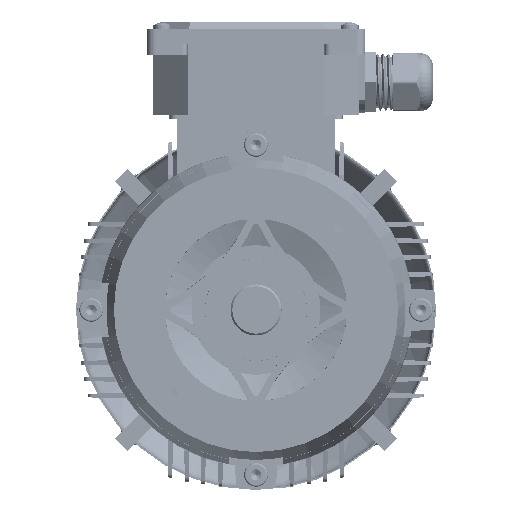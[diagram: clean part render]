
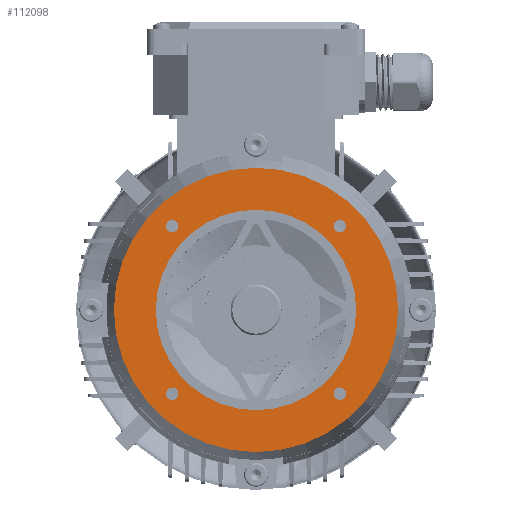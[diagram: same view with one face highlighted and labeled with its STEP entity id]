
A CAD part, front view. The second image highlights one B-rep face of the part: STEP entity #112098.
In plain terms, the highlighted planar face has unit normal (0, -1, 0).
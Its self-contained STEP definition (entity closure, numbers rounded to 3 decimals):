
#507 = DIRECTION ( 'NONE',  ( 0., -1., 0. ) ) ;
#873 = EDGE_LOOP ( 'NONE', ( #34666, #10859 ) ) ;
#1508 = CARTESIAN_POINT ( 'NONE',  ( 0., 21.003, 0. ) ) ;
#1948 = CARTESIAN_POINT ( 'NONE',  ( 0., 21.003, 0. ) ) ;
#3130 = DIRECTION ( 'NONE',  ( 0., 0., -1. ) ) ;
#3327 = DIRECTION ( 'NONE',  ( 0., -1., 0. ) ) ;
#4052 = EDGE_CURVE ( 'NONE', #50949, #20603, #116180, .T. ) ;
#5155 = CARTESIAN_POINT ( 'NONE',  ( -45.962, 21.003, 42.562 ) ) ;
#6336 = DIRECTION ( 'NONE',  ( 0., 0., -1. ) ) ;
#8072 = AXIS2_PLACEMENT_3D ( 'NONE', #47995, #113997, #57518 ) ;
#9351 = AXIS2_PLACEMENT_3D ( 'NONE', #116197, #59682, #3130 ) ;
#9647 = CARTESIAN_POINT ( 'NONE',  ( 45.962, 21.003, -45.962 ) ) ;
#10859 = ORIENTED_EDGE ( 'NONE', *, *, #76048, .F. ) ;
#11021 = DIRECTION ( 'NONE',  ( 0., 0., -1. ) ) ;
#11437 = AXIS2_PLACEMENT_3D ( 'NONE', #1508, #67525, #11021 ) ;
#11463 = DIRECTION ( 'NONE',  ( 0., 0., -1. ) ) ;
#11808 = ORIENTED_EDGE ( 'NONE', *, *, #96325, .F. ) ;
#11857 = AXIS2_PLACEMENT_3D ( 'NONE', #105547, #87000, #30579 ) ;
#13020 = AXIS2_PLACEMENT_3D ( 'NONE', #71510, #15078, #81009 ) ;
#14654 = CARTESIAN_POINT ( 'NONE',  ( -45.962, 21.003, -45.962 ) ) ;
#15078 = DIRECTION ( 'NONE',  ( 0., -1., 0. ) ) ;
#19187 = DIRECTION ( 'NONE',  ( 0., 0., -1. ) ) ;
#20000 = EDGE_CURVE ( 'NONE', #112520, #91763, #90257, .T. ) ;
#20036 = EDGE_CURVE ( 'NONE', #68073, #48106, #37115, .T. ) ;
#20159 = ORIENTED_EDGE ( 'NONE', *, *, #107417, .F. ) ;
#20601 = CARTESIAN_POINT ( 'NONE',  ( 45.962, 21.003, 45.962 ) ) ;
#20603 = VERTEX_POINT ( 'NONE', #104446 ) ;
#22218 = FACE_BOUND ( 'NONE', #43931, .T. ) ;
#23783 = VERTEX_POINT ( 'NONE', #116498 ) ;
#24160 = DIRECTION ( 'NONE',  ( 0., 0., -1. ) ) ;
#25765 = AXIS2_PLACEMENT_3D ( 'NONE', #57084, #507, #66493 ) ;
#29665 = EDGE_CURVE ( 'NONE', #121621, #23783, #82547, .T. ) ;
#30145 = DIRECTION ( 'NONE',  ( 0., 0., -1. ) ) ;
#30579 = DIRECTION ( 'NONE',  ( 0., 0., -1. ) ) ;
#31387 = CARTESIAN_POINT ( 'NONE',  ( 0., 21.003, -55. ) ) ;
#31615 = ORIENTED_EDGE ( 'NONE', *, *, #29665, .F. ) ;
#31795 = CIRCLE ( 'NONE', #25765, 3.4 ) ;
#32665 = AXIS2_PLACEMENT_3D ( 'NONE', #9647, #75637, #19187 ) ;
#34408 = ORIENTED_EDGE ( 'NONE', *, *, #4052, .F. ) ;
#34666 = ORIENTED_EDGE ( 'NONE', *, *, #55423, .F. ) ;
#37115 = CIRCLE ( 'NONE', #120946, 78. ) ;
#39044 = CARTESIAN_POINT ( 'NONE',  ( 45.962, 21.003, 49.362 ) ) ;
#40820 = CIRCLE ( 'NONE', #73087, 3.4 ) ;
#42418 = CIRCLE ( 'NONE', #112159, 3.4 ) ;
#43931 = EDGE_LOOP ( 'NONE', ( #79771, #63615 ) ) ;
#45009 = CIRCLE ( 'NONE', #64095, 78. ) ;
#45664 = CARTESIAN_POINT ( 'NONE',  ( 0., 21.003, 0. ) ) ;
#46729 = EDGE_CURVE ( 'NONE', #23783, #121621, #31795, .T. ) ;
#47250 = FACE_BOUND ( 'NONE', #80496, .T. ) ;
#47995 = CARTESIAN_POINT ( 'NONE',  ( 0., 21.003, 0. ) ) ;
#48106 = VERTEX_POINT ( 'NONE', #108559 ) ;
#50949 = VERTEX_POINT ( 'NONE', #57376 ) ;
#55176 = DIRECTION ( 'NONE',  ( 0., 0., -1. ) ) ;
#55423 = EDGE_CURVE ( 'NONE', #62669, #70119, #73583, .T. ) ;
#57017 = AXIS2_PLACEMENT_3D ( 'NONE', #14654, #80592, #24160 ) ;
#57084 = CARTESIAN_POINT ( 'NONE',  ( -45.962, 21.003, -45.962 ) ) ;
#57376 = CARTESIAN_POINT ( 'NONE',  ( 45.962, 21.003, -49.362 ) ) ;
#57518 = DIRECTION ( 'NONE',  ( 0., 0., -1. ) ) ;
#58554 = PLANE ( 'NONE',  #11857 ) ;
#59682 = DIRECTION ( 'NONE',  ( 0., -1., 0. ) ) ;
#59865 = CARTESIAN_POINT ( 'NONE',  ( -45.962, 21.003, 45.962 ) ) ;
#61201 = ORIENTED_EDGE ( 'NONE', *, *, #93158, .T. ) ;
#61520 = CIRCLE ( 'NONE', #9351, 3.4 ) ;
#61880 = CARTESIAN_POINT ( 'NONE',  ( 0., 21.003, 55. ) ) ;
#62669 = VERTEX_POINT ( 'NONE', #31387 ) ;
#62888 = DIRECTION ( 'NONE',  ( 0., -1., 0. ) ) ;
#63323 = ORIENTED_EDGE ( 'NONE', *, *, #46729, .F. ) ;
#63615 = ORIENTED_EDGE ( 'NONE', *, *, #20000, .F. ) ;
#64095 = AXIS2_PLACEMENT_3D ( 'NONE', #45664, #111610, #55176 ) ;
#66493 = DIRECTION ( 'NONE',  ( 0., 0., -1. ) ) ;
#67525 = DIRECTION ( 'NONE',  ( 0., -1., 0. ) ) ;
#67899 = EDGE_LOOP ( 'NONE', ( #20159, #11808 ) ) ;
#67987 = DIRECTION ( 'NONE',  ( 0., -1., 0. ) ) ;
#68073 = VERTEX_POINT ( 'NONE', #110255 ) ;
#69362 = DIRECTION ( 'NONE',  ( 0., 0., -1. ) ) ;
#70119 = VERTEX_POINT ( 'NONE', #61880 ) ;
#71510 = CARTESIAN_POINT ( 'NONE',  ( -45.962, 21.003, 45.962 ) ) ;
#72328 = FACE_BOUND ( 'NONE', #72968, .T. ) ;
#72968 = EDGE_LOOP ( 'NONE', ( #31615, #63323 ) ) ;
#73087 = AXIS2_PLACEMENT_3D ( 'NONE', #59865, #3327, #69362 ) ;
#73583 = CIRCLE ( 'NONE', #11437, 55. ) ;
#75215 = ORIENTED_EDGE ( 'NONE', *, *, #20036, .T. ) ;
#75637 = DIRECTION ( 'NONE',  ( 0., -1., 0. ) ) ;
#76048 = EDGE_CURVE ( 'NONE', #70119, #62669, #118738, .T. ) ;
#79771 = ORIENTED_EDGE ( 'NONE', *, *, #81984, .F. ) ;
#80496 = EDGE_LOOP ( 'NONE', ( #34408, #81715 ) ) ;
#80592 = DIRECTION ( 'NONE',  ( 0., -1., 0. ) ) ;
#81009 = DIRECTION ( 'NONE',  ( 0., 0., -1. ) ) ;
#81715 = ORIENTED_EDGE ( 'NONE', *, *, #91533, .F. ) ;
#81984 = EDGE_CURVE ( 'NONE', #91763, #112520, #61520, .T. ) ;
#82547 = CIRCLE ( 'NONE', #57017, 3.4 ) ;
#86557 = DIRECTION ( 'NONE',  ( 0., -1., 0. ) ) ;
#87000 = DIRECTION ( 'NONE',  ( 0., -1., 0. ) ) ;
#90257 = CIRCLE ( 'NONE', #108294, 3.4 ) ;
#91014 = VERTEX_POINT ( 'NONE', #100574 ) ;
#91533 = EDGE_CURVE ( 'NONE', #20603, #50949, #42418, .T. ) ;
#91763 = VERTEX_POINT ( 'NONE', #94233 ) ;
#91963 = CIRCLE ( 'NONE', #13020, 3.4 ) ;
#93158 = EDGE_CURVE ( 'NONE', #48106, #68073, #45009, .T. ) ;
#94233 = CARTESIAN_POINT ( 'NONE',  ( 45.962, 21.003, 42.562 ) ) ;
#94510 = FACE_BOUND ( 'NONE', #873, .T. ) ;
#96325 = EDGE_CURVE ( 'NONE', #91014, #114634, #91963, .T. ) ;
#97433 = FACE_BOUND ( 'NONE', #67899, .T. ) ;
#100574 = CARTESIAN_POINT ( 'NONE',  ( -45.962, 21.003, 49.362 ) ) ;
#104446 = CARTESIAN_POINT ( 'NONE',  ( 45.962, 21.003, -42.562 ) ) ;
#105547 = CARTESIAN_POINT ( 'NONE',  ( 55., 21.003, 0. ) ) ;
#107417 = EDGE_CURVE ( 'NONE', #114634, #91014, #40820, .T. ) ;
#108294 = AXIS2_PLACEMENT_3D ( 'NONE', #20601, #86557, #30145 ) ;
#108559 = CARTESIAN_POINT ( 'NONE',  ( 0., 21.003, 78. ) ) ;
#110255 = CARTESIAN_POINT ( 'NONE',  ( 0., 21.003, -78. ) ) ;
#111610 = DIRECTION ( 'NONE',  ( 0., -1., 0. ) ) ;
#112098 = ADVANCED_FACE ( 'NONE', ( #97433, #22218, #72328, #47250, #119551, #94510 ), #58554, .T. ) ;
#112159 = AXIS2_PLACEMENT_3D ( 'NONE', #119402, #62888, #6336 ) ;
#112520 = VERTEX_POINT ( 'NONE', #39044 ) ;
#113997 = DIRECTION ( 'NONE',  ( 0., -1., 0. ) ) ;
#114634 = VERTEX_POINT ( 'NONE', #5155 ) ;
#116180 = CIRCLE ( 'NONE', #32665, 3.4 ) ;
#116197 = CARTESIAN_POINT ( 'NONE',  ( 45.962, 21.003, 45.962 ) ) ;
#116498 = CARTESIAN_POINT ( 'NONE',  ( -45.962, 21.003, -42.562 ) ) ;
#117553 = EDGE_LOOP ( 'NONE', ( #61201, #75215 ) ) ;
#118046 = CARTESIAN_POINT ( 'NONE',  ( -45.962, 21.003, -49.362 ) ) ;
#118738 = CIRCLE ( 'NONE', #8072, 55. ) ;
#119402 = CARTESIAN_POINT ( 'NONE',  ( 45.962, 21.003, -45.962 ) ) ;
#119551 = FACE_OUTER_BOUND ( 'NONE', #117553, .T. ) ;
#120946 = AXIS2_PLACEMENT_3D ( 'NONE', #1948, #67987, #11463 ) ;
#121621 = VERTEX_POINT ( 'NONE', #118046 ) ;
